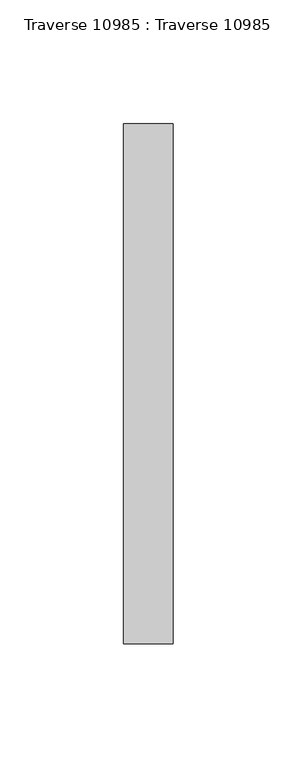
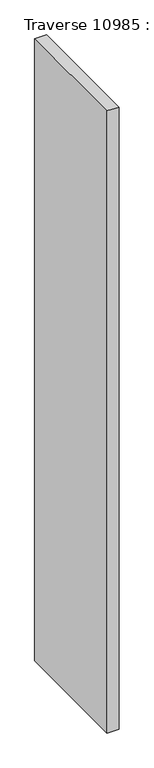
"""IFC4 building model written with IfcOpenShell, lengths in millimetres: beam geometry, Traverse 10985 : Traverse 10985."""

from ifc_helpers import new_model, si_unit, frame, origin, place, context, project, spatial, polyline, outline, extrude, source, transform, mapped, element, save


def traverse_10985_traverse_10985_980aa088(model_context):
    return source(origin(), model_context, "Body", "SweptSolid", [
        extrude(outline(polyline([(389.9999701, -15.0), (389.9999701, -225.0), (369.9999701, -225.0), (369.9999701, -15.0), (389.9999701, -15.0)])), frame((0.0, 0.0, 6921.3681805), z_axis=(0.0, 0.0, 1.0), x_axis=(1.0, 0.0, 0.0)), (0.0, 0.0, 1.0), 1098.6818206),
    ])


if __name__ == "__main__":
    model = new_model("IFC4")
    model_context = context("Model", 3, world=origin())
    ifc_project = project(units=[si_unit("LENGTHUNIT", "METRE", prefix="MILLI")], contexts=[model_context])
    site = spatial("IfcSite", under=ifc_project)
    building = spatial("IfcBuilding", under=site)
    placement = place(None, origin())
    traverse_10985_traverse_10985_shape = traverse_10985_traverse_10985_980aa088(model_context)
    element("IfcBeam", 1, ObjectType="Traverse 10985 : Traverse 10985", at=placement, inside=building, context=model_context, shape_type="MappedRepresentation", body=[
        mapped(traverse_10985_traverse_10985_shape, transform((0.0, 0.0, 0.0), x_axis=(1.0, 0.0, 0.0), y_axis=(0.0, 1.0, 0.0), z_axis=(0.0, 0.0, 1.0))),
    ])
    save(model, "model.ifc")
